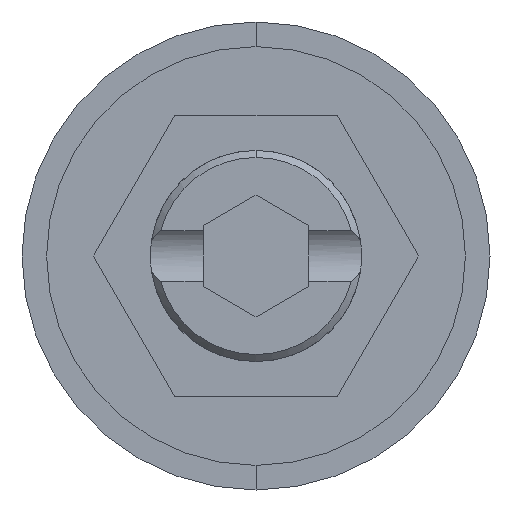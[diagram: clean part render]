
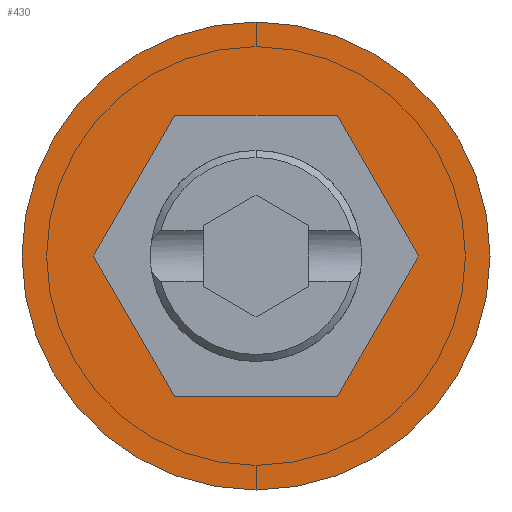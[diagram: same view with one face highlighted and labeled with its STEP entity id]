
A CAD part, front view. The second image highlights one B-rep face of the part: STEP entity #430.
In plain terms, the highlighted planar face has unit normal (0, -1, 0).
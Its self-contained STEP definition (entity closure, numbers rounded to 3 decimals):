
#5 = DIRECTION ( 'NONE',  ( 0., 0., -1. ) ) ;
#6 = EDGE_LOOP ( 'NONE', ( #577, #1825, #1571, #206, #1423, #1697 ) ) ;
#29 = EDGE_CURVE ( 'NONE', #1873, #1668, #1327, .T. ) ;
#72 = LINE ( 'NONE', #1607, #1811 ) ;
#128 = VECTOR ( 'NONE', #1507, 1000. ) ;
#168 = VECTOR ( 'NONE', #981, 1000. ) ;
#206 = ORIENTED_EDGE ( 'NONE', *, *, #911, .F. ) ;
#238 = CARTESIAN_POINT ( 'NONE',  ( 0., 0., -6.65 ) ) ;
#430 = ADVANCED_FACE ( 'NONE', ( #905, #1420 ), #654, .T. ) ;
#479 = CARTESIAN_POINT ( 'NONE',  ( -2.309, 0., 4. ) ) ;
#522 = ORIENTED_EDGE ( 'NONE', *, *, #1820, .T. ) ;
#532 = VECTOR ( 'NONE', #1930, 1000. ) ;
#567 = CARTESIAN_POINT ( 'NONE',  ( 2.309, 0., 4. ) ) ;
#577 = ORIENTED_EDGE ( 'NONE', *, *, #821, .F. ) ;
#590 = DIRECTION ( 'NONE',  ( 0., -1., 0. ) ) ;
#654 = PLANE ( 'NONE',  #1585 ) ;
#655 = LINE ( 'NONE', #830, #168 ) ;
#705 = CARTESIAN_POINT ( 'NONE',  ( 0., 0., 0. ) ) ;
#788 = CARTESIAN_POINT ( 'NONE',  ( 0., 0., 0. ) ) ;
#816 = DIRECTION ( 'NONE',  ( 0., -1., 0. ) ) ;
#821 = EDGE_CURVE ( 'NONE', #1668, #1828, #655, .T. ) ;
#830 = CARTESIAN_POINT ( 'NONE',  ( -2.309, 0., -4. ) ) ;
#842 = VERTEX_POINT ( 'NONE', #1015 ) ;
#844 = CARTESIAN_POINT ( 'NONE',  ( 0., 0., 0. ) ) ;
#866 = DIRECTION ( 'NONE',  ( 0., 0., -1. ) ) ;
#870 = DIRECTION ( 'NONE',  ( 0., -1., 0. ) ) ;
#877 = DIRECTION ( 'NONE',  ( 0., 0., -1. ) ) ;
#879 = CARTESIAN_POINT ( 'NONE',  ( 2.309, 0., -4. ) ) ;
#889 = CIRCLE ( 'NONE', #1988, 6.65 ) ;
#905 = FACE_BOUND ( 'NONE', #6, .T. ) ;
#906 = EDGE_LOOP ( 'NONE', ( #1545, #522 ) ) ;
#911 = EDGE_CURVE ( 'NONE', #1099, #1796, #1785, .T. ) ;
#952 = VECTOR ( 'NONE', #1634, 1000. ) ;
#965 = EDGE_CURVE ( 'NONE', #1741, #2044, #889, .T. ) ;
#981 = DIRECTION ( 'NONE',  ( 1., 0., 0. ) ) ;
#1003 = LINE ( 'NONE', #1621, #952 ) ;
#1015 = CARTESIAN_POINT ( 'NONE',  ( 4.619, 0., 0. ) ) ;
#1099 = VERTEX_POINT ( 'NONE', #567 ) ;
#1123 = LINE ( 'NONE', #1186, #128 ) ;
#1180 = EDGE_CURVE ( 'NONE', #1828, #842, #72, .T. ) ;
#1186 = CARTESIAN_POINT ( 'NONE',  ( -2.309, 0., 4. ) ) ;
#1327 = LINE ( 'NONE', #2154, #2064 ) ;
#1335 = CARTESIAN_POINT ( 'NONE',  ( -4.619, 0., 0. ) ) ;
#1360 = CARTESIAN_POINT ( 'NONE',  ( 0., 0., 6.65 ) ) ;
#1420 = FACE_OUTER_BOUND ( 'NONE', #906, .T. ) ;
#1423 = ORIENTED_EDGE ( 'NONE', *, *, #1937, .F. ) ;
#1507 = DIRECTION ( 'NONE',  ( -0.5, 0., -0.866 ) ) ;
#1545 = ORIENTED_EDGE ( 'NONE', *, *, #965, .T. ) ;
#1550 = CIRCLE ( 'NONE', #2131, 6.65 ) ;
#1571 = ORIENTED_EDGE ( 'NONE', *, *, #1572, .F. ) ;
#1572 = EDGE_CURVE ( 'NONE', #1796, #1873, #1123, .T. ) ;
#1585 = AXIS2_PLACEMENT_3D ( 'NONE', #705, #590, #5 ) ;
#1607 = CARTESIAN_POINT ( 'NONE',  ( 2.309, 0., -4. ) ) ;
#1621 = CARTESIAN_POINT ( 'NONE',  ( 4.619, 0., 0. ) ) ;
#1634 = DIRECTION ( 'NONE',  ( -0.5, 0., 0.866 ) ) ;
#1668 = VERTEX_POINT ( 'NONE', #1797 ) ;
#1697 = ORIENTED_EDGE ( 'NONE', *, *, #1180, .F. ) ;
#1709 = DIRECTION ( 'NONE',  ( 0.5, 0., 0.866 ) ) ;
#1741 = VERTEX_POINT ( 'NONE', #238 ) ;
#1785 = LINE ( 'NONE', #1923, #532 ) ;
#1796 = VERTEX_POINT ( 'NONE', #479 ) ;
#1797 = CARTESIAN_POINT ( 'NONE',  ( -2.309, 0., -4. ) ) ;
#1811 = VECTOR ( 'NONE', #1709, 1000. ) ;
#1820 = EDGE_CURVE ( 'NONE', #2044, #1741, #1550, .T. ) ;
#1825 = ORIENTED_EDGE ( 'NONE', *, *, #29, .F. ) ;
#1828 = VERTEX_POINT ( 'NONE', #879 ) ;
#1873 = VERTEX_POINT ( 'NONE', #1335 ) ;
#1923 = CARTESIAN_POINT ( 'NONE',  ( 2.309, 0., 4. ) ) ;
#1930 = DIRECTION ( 'NONE',  ( -1., 0., 0. ) ) ;
#1937 = EDGE_CURVE ( 'NONE', #842, #1099, #1003, .T. ) ;
#1988 = AXIS2_PLACEMENT_3D ( 'NONE', #844, #870, #877 ) ;
#2044 = VERTEX_POINT ( 'NONE', #1360 ) ;
#2064 = VECTOR ( 'NONE', #2080, 1000. ) ;
#2080 = DIRECTION ( 'NONE',  ( 0.5, 0., -0.866 ) ) ;
#2131 = AXIS2_PLACEMENT_3D ( 'NONE', #788, #816, #866 ) ;
#2154 = CARTESIAN_POINT ( 'NONE',  ( -4.619, 0., 0. ) ) ;
